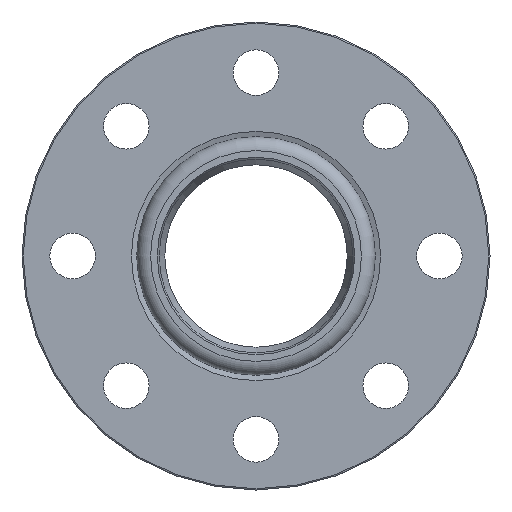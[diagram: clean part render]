
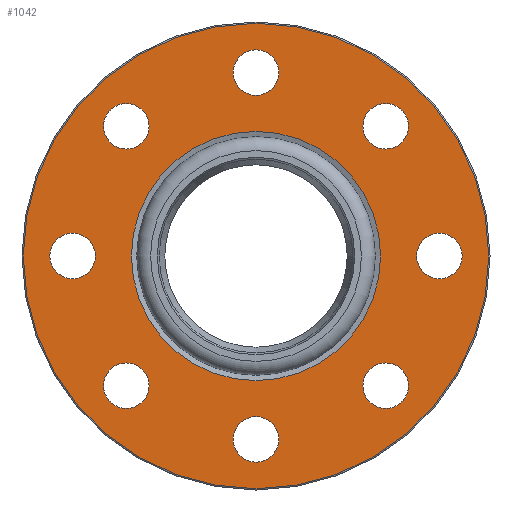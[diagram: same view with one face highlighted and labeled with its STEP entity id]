
A CAD part, left-side view. The second image highlights one B-rep face of the part: STEP entity #1042.
In plain terms, the highlighted planar face has unit normal (-1, 0, 0) as drawn and (0, 0, 1) by its records, which use the part's own axes.
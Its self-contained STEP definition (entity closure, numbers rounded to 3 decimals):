
#655=CARTESIAN_POINT('',(-63.5,0.,0.0));
#656=VERTEX_POINT('',#655);
#657=CARTESIAN_POINT('',(-72.5,0.,0.0));
#658=DIRECTION('',(0.0,0.0,-1.0));
#659=DIRECTION('',(-1.0,0.0,0.0));
#660=AXIS2_PLACEMENT_3D('',#657,#658,#659);
#661=CIRCLE('',#660,9.0);
#662=EDGE_CURVE('',#656,#656,#661,.T.);
#683=CARTESIAN_POINT('',(9.,-72.5,0.0));
#684=VERTEX_POINT('',#683);
#685=CARTESIAN_POINT('',(0.,-72.5,0.0));
#686=DIRECTION('',(0.0,0.0,-1.0));
#687=DIRECTION('',(-1.0,0.0,0.0));
#688=AXIS2_PLACEMENT_3D('',#685,#686,#687);
#689=CIRCLE('',#688,9.0);
#690=EDGE_CURVE('',#684,#684,#689,.T.);
#711=CARTESIAN_POINT('',(81.5,0.,0.0));
#712=VERTEX_POINT('',#711);
#713=CARTESIAN_POINT('',(72.5,0.,0.0));
#714=DIRECTION('',(0.0,0.0,-1.0));
#715=DIRECTION('',(-1.0,0.0,0.0));
#716=AXIS2_PLACEMENT_3D('',#713,#714,#715);
#717=CIRCLE('',#716,9.0);
#718=EDGE_CURVE('',#712,#712,#717,.T.);
#739=CARTESIAN_POINT('',(9.,72.5,0.0));
#740=VERTEX_POINT('',#739);
#741=CARTESIAN_POINT('',(0.,72.5,0.0));
#742=DIRECTION('',(0.0,0.0,-1.0));
#743=DIRECTION('',(-1.0,0.0,0.0));
#744=AXIS2_PLACEMENT_3D('',#741,#742,#743);
#745=CIRCLE('',#744,9.0);
#746=EDGE_CURVE('',#740,#740,#745,.T.);
#767=CARTESIAN_POINT('',(0.0,-49.233,0.));
#768=VERTEX_POINT('',#767);
#769=CARTESIAN_POINT('',(0.0,0.0,0.0));
#770=DIRECTION('',(0.0,0.0,-1.0));
#771=DIRECTION('',(0.0,-1.0,0.0));
#772=AXIS2_PLACEMENT_3D('',#769,#770,#771);
#773=CIRCLE('',#772,49.233);
#774=EDGE_CURVE('',#768,#768,#773,.T.);
#960=CARTESIAN_POINT('',(92.0,0.,0.0));
#961=VERTEX_POINT('',#960);
#962=CARTESIAN_POINT('',(0.0,0.0,0.0));
#963=DIRECTION('',(0.0,0.0,-1.0));
#964=DIRECTION('',(-1.0,0.0,0.0));
#965=AXIS2_PLACEMENT_3D('',#962,#963,#964);
#966=CIRCLE('',#965,92.0);
#967=EDGE_CURVE('',#961,#961,#966,.T.);
#975=CARTESIAN_POINT('',(0.0,0.0,0.0));
#976=DIRECTION('',(0.0,0.0,-1.0));
#977=DIRECTION('',(-1.0,0.0,0.0));
#978=AXIS2_PLACEMENT_3D('',#975,#976,#977);
#979=PLANE('',#978);
#980=ORIENTED_EDGE('',*,*,#967,.F.);
#981=EDGE_LOOP('',(#980));
#982=FACE_OUTER_BOUND('',#981,.T.);
#983=ORIENTED_EDGE('',*,*,#662,.T.);
#984=EDGE_LOOP('',(#983));
#985=FACE_BOUND('',#984,.T.);
#986=ORIENTED_EDGE('',*,*,#690,.T.);
#987=EDGE_LOOP('',(#986));
#988=FACE_BOUND('',#987,.T.);
#989=ORIENTED_EDGE('',*,*,#718,.T.);
#990=EDGE_LOOP('',(#989));
#991=FACE_BOUND('',#990,.T.);
#992=ORIENTED_EDGE('',*,*,#746,.T.);
#993=EDGE_LOOP('',(#992));
#994=FACE_BOUND('',#993,.T.);
#995=ORIENTED_EDGE('',*,*,#774,.T.);
#996=EDGE_LOOP('',(#995));
#997=FACE_BOUND('',#996,.T.);
#998=CARTESIAN_POINT('',(-42.265,51.265,0.0));
#999=VERTEX_POINT('',#998);
#1000=CARTESIAN_POINT('',(-51.265,51.265,0.0));
#1001=DIRECTION('',(0.0,0.0,-1.0));
#1002=DIRECTION('',(-1.0,0.0,0.0));
#1003=AXIS2_PLACEMENT_3D('',#1000,#1001,#1002);
#1004=CIRCLE('',#1003,9.0);
#1005=EDGE_CURVE('',#999,#999,#1004,.T.);
#1006=ORIENTED_EDGE('',*,*,#1005,.T.);
#1007=EDGE_LOOP('',(#1006));
#1008=FACE_BOUND('',#1007,.T.);
#1009=CARTESIAN_POINT('',(60.265,51.265,0.0));
#1010=VERTEX_POINT('',#1009);
#1011=CARTESIAN_POINT('',(51.265,51.265,0.0));
#1012=DIRECTION('',(0.0,0.0,-1.0));
#1013=DIRECTION('',(-1.0,0.0,0.0));
#1014=AXIS2_PLACEMENT_3D('',#1011,#1012,#1013);
#1015=CIRCLE('',#1014,9.0);
#1016=EDGE_CURVE('',#1010,#1010,#1015,.T.);
#1017=ORIENTED_EDGE('',*,*,#1016,.T.);
#1018=EDGE_LOOP('',(#1017));
#1019=FACE_BOUND('',#1018,.T.);
#1020=CARTESIAN_POINT('',(60.265,-51.265,0.0));
#1021=VERTEX_POINT('',#1020);
#1022=CARTESIAN_POINT('',(51.265,-51.265,0.0));
#1023=DIRECTION('',(0.0,0.0,-1.0));
#1024=DIRECTION('',(-1.0,0.0,0.0));
#1025=AXIS2_PLACEMENT_3D('',#1022,#1023,#1024);
#1026=CIRCLE('',#1025,9.0);
#1027=EDGE_CURVE('',#1021,#1021,#1026,.T.);
#1028=ORIENTED_EDGE('',*,*,#1027,.T.);
#1029=EDGE_LOOP('',(#1028));
#1030=FACE_BOUND('',#1029,.T.);
#1031=CARTESIAN_POINT('',(-42.265,-51.265,0.0));
#1032=VERTEX_POINT('',#1031);
#1033=CARTESIAN_POINT('',(-51.265,-51.265,0.0));
#1034=DIRECTION('',(0.0,0.0,-1.0));
#1035=DIRECTION('',(-1.0,0.0,0.0));
#1036=AXIS2_PLACEMENT_3D('',#1033,#1034,#1035);
#1037=CIRCLE('',#1036,9.0);
#1038=EDGE_CURVE('',#1032,#1032,#1037,.T.);
#1039=ORIENTED_EDGE('',*,*,#1038,.T.);
#1040=EDGE_LOOP('',(#1039));
#1041=FACE_BOUND('',#1040,.T.);
#1042=ADVANCED_FACE('',(#982,#985,#988,#991,#994,#997,#1008,#1019,#1030,#1041),#979,.F.);
